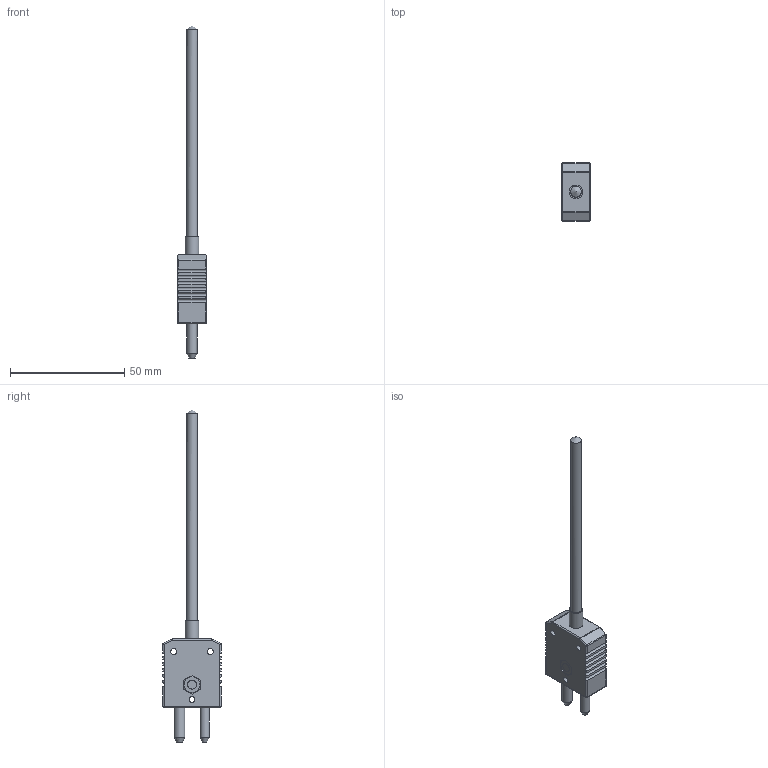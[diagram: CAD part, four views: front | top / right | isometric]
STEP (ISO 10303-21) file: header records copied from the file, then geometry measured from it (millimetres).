
FILE_DESCRIPTION (( 'STEP AP203' ), '1' );
FILE_NAME ('YIT75S-3(0).STEP', '2025-07-30T05:45:58', ( '' ), ( '' ), 'SwSTEP 2.0', 'SolidWorks 2024', '' );
FILE_SCHEMA (( 'CONFIG_CONTROL_DESIGN' ));
Length unit declared in the file: millimetre
Products named in the file (1): YIT75S-3(0)
Bounding box: 12.5 x 25.4 x 145 mm (x, y, z)
Volume: 11320.9 mm3; surface area: 5459.5 mm2
Topology: 1 solids, 1 shells, 151 faces, 388 edges, 243 vertices
Faces by surface type: cylinder 68, plane 59, sphere 12, cone 9, torus 3
Full cylindrical faces by diameter (mm): 2.6 x3, 3.9 x2, 4 x4, 4.7 x1, 4.8 x1, 6 x1, 6.7 x1, 7 x1
Entity records: 4804 total; most frequent: CARTESIAN_POINT 1279, ORIENTED_EDGE 702, DIRECTION 693, EDGE_CURVE 351, AXIS2_PLACEMENT_3D 254, VERTEX_POINT 232, EDGE_LOOP 187, LINE 185
